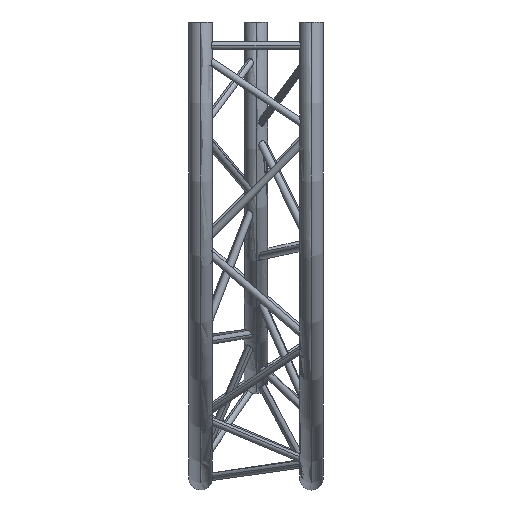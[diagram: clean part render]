
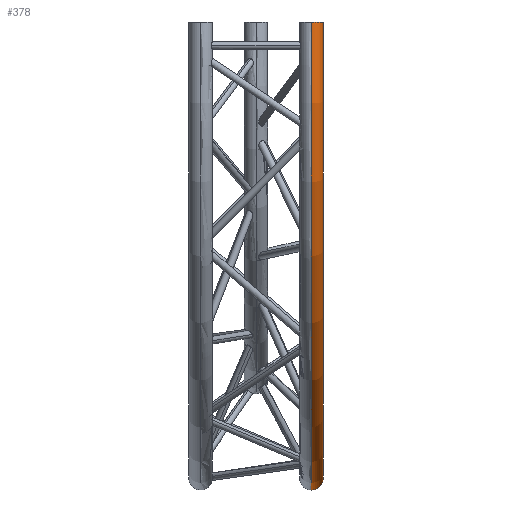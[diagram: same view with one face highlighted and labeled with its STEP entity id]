
A CAD part, left-side view. The second image highlights one B-rep face of the part: STEP entity #378.
In plain terms, the highlighted toroidal (fillet/blend) face has major radius 975 mm and minor radius 25 mm.
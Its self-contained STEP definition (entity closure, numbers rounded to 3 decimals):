
#143 = ORIENTED_EDGE ( 'NONE', *, *, #146, .F. ) ;
#146 = EDGE_CURVE ( 'NONE', #153, #283, #2394, .T. ) ;
#148 = ORIENTED_EDGE ( 'NONE', *, *, #150, .T. ) ;
#149 = ORIENTED_EDGE ( 'NONE', *, *, #287, .T. ) ;
#150 = EDGE_CURVE ( 'NONE', #156, #284, #2388, .T. ) ;
#153 = VERTEX_POINT ( 'NONE', #2383 ) ;
#156 = VERTEX_POINT ( 'NONE', #2414 ) ;
#283 = VERTEX_POINT ( 'NONE', #4110 ) ;
#284 = VERTEX_POINT ( 'NONE', #4109 ) ;
#287 = EDGE_CURVE ( 'NONE', #284, #283, #4108, .T. ) ;
#363 = ORIENTED_EDGE ( 'NONE', *, *, #2766, .T. ) ;
#367 = EDGE_LOOP ( 'NONE', ( #363, #148, #149, #143 ) ) ;
#378 = ADVANCED_FACE ( 'NONE', ( #4562 ), #4558, .T. ) ;
#2383 = CARTESIAN_POINT ( 'NONE',  ( -950., -118.5, 0. ) ) ;
#2384 = DIRECTION ( 'NONE',  ( 0., 0., -1. ) ) ;
#2385 = DIRECTION ( 'NONE',  ( 0., -1., 0. ) ) ;
#2386 = CARTESIAN_POINT ( 'NONE',  ( 0., -118.5, 0. ) ) ;
#2387 = AXIS2_PLACEMENT_3D ( 'NONE', #2386, #2385, #2384 ) ;
#2388 = CIRCLE ( 'NONE', #2387, 1000. ) ;
#2390 = DIRECTION ( 'NONE',  ( 0., 0., -1. ) ) ;
#2391 = DIRECTION ( 'NONE',  ( 0., -1., 0. ) ) ;
#2392 = CARTESIAN_POINT ( 'NONE',  ( 0., -118.5, 0. ) ) ;
#2393 = AXIS2_PLACEMENT_3D ( 'NONE', #2392, #2391, #2390 ) ;
#2394 = CIRCLE ( 'NONE', #2393, 950. ) ;
#2414 = CARTESIAN_POINT ( 'NONE',  ( -1000., -118.5, 0. ) ) ;
#2766 = EDGE_CURVE ( 'NONE', #153, #156, #9549, .T. ) ;
#4104 = DIRECTION ( 'NONE',  ( 0., 0., 1. ) ) ;
#4105 = DIRECTION ( 'NONE',  ( -1., 0., 0. ) ) ;
#4106 = CARTESIAN_POINT ( 'NONE',  ( 0., -118.5, -975. ) ) ;
#4107 = AXIS2_PLACEMENT_3D ( 'NONE', #4106, #4105, #4104 ) ;
#4108 = CIRCLE ( 'NONE', #4107, 25. ) ;
#4109 = CARTESIAN_POINT ( 'NONE',  ( 0., -118.5, -1000. ) ) ;
#4110 = CARTESIAN_POINT ( 'NONE',  ( 0., -118.5, -950. ) ) ;
#4554 = DIRECTION ( 'NONE',  ( 0., 0., -1. ) ) ;
#4555 = DIRECTION ( 'NONE',  ( 0., -1., 0. ) ) ;
#4556 = AXIS2_PLACEMENT_3D ( 'NONE', #4557, #4555, #4554 ) ;
#4557 = CARTESIAN_POINT ( 'NONE',  ( 0., -118.5, 0. ) ) ;
#4558 = TOROIDAL_SURFACE ( 'NONE', #4556, 975., 25. ) ;
#4562 = FACE_OUTER_BOUND ( 'NONE', #367, .T. ) ;
#9545 = DIRECTION ( 'NONE',  ( -1., 0., 0. ) ) ;
#9546 = DIRECTION ( 'NONE',  ( 0., 0., -1. ) ) ;
#9547 = CARTESIAN_POINT ( 'NONE',  ( -975., -118.5, 0. ) ) ;
#9548 = AXIS2_PLACEMENT_3D ( 'NONE', #9547, #9546, #9545 ) ;
#9549 = CIRCLE ( 'NONE', #9548, 25. ) ;
